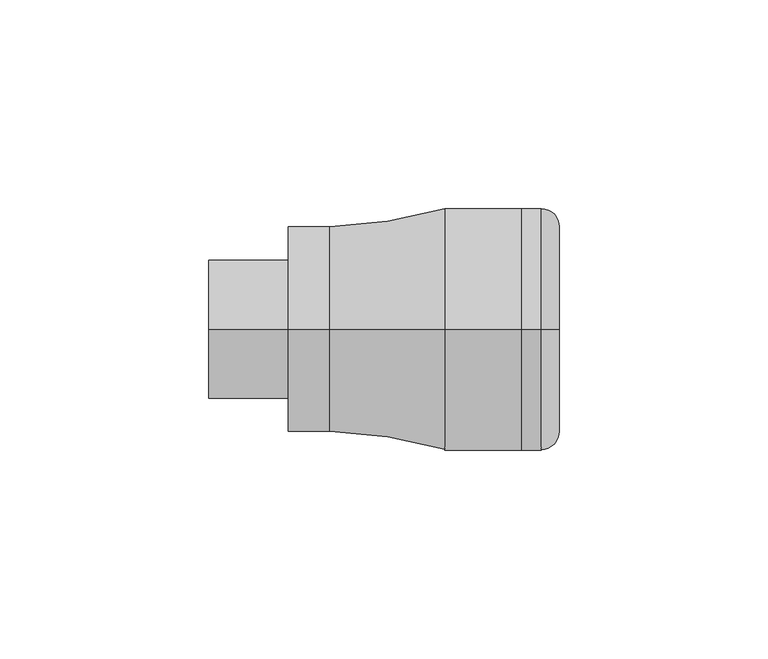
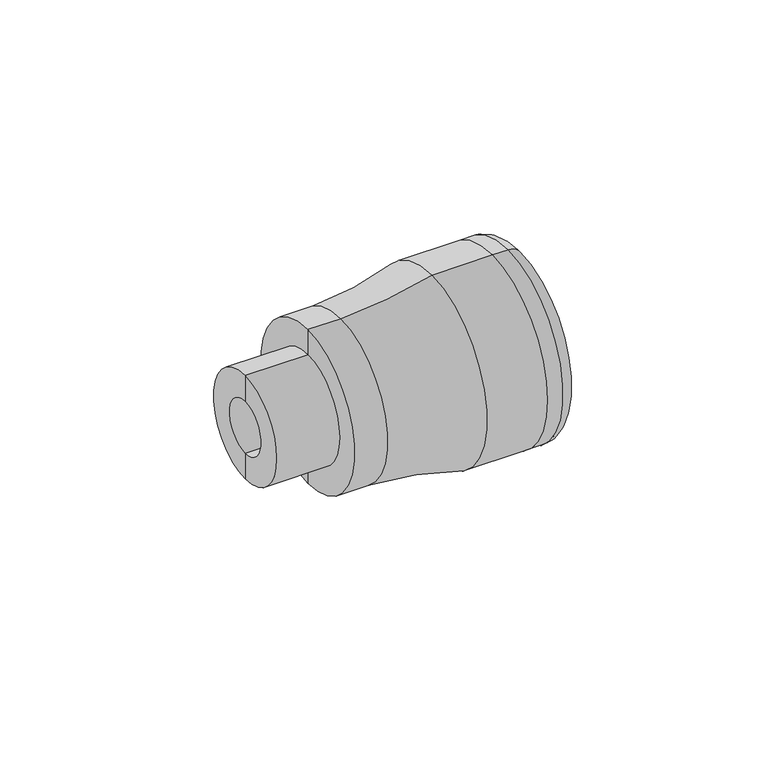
"""IFC4 building model written with IfcOpenShell, lengths in millimetres: pipe fitting geometry, Plumbing_Pipe-Fittings_Plasson_Male-Adaptor_1002 : Plumbing_Pipe-Fittings_Plasson_Male-Adaptor_1002."""

from ifc_helpers import new_model, si_unit, point, frame, origin, place, context, project, spatial, polyline, circle_curve, ellipse_curve, trimmed, source, transform, mapped, element, save
from ifc_brep_helpers import plane_surface, cylinder_surface, revolved_surface, advanced_brep


def pipe_fitting_8a6a588a(model_context):
    return source(origin(), model_context, "Body", "AdvancedBrep", [
        advanced_brep(
        [(0.8817136, 0.0, -8.3), (0.8817136, 0.0, 8.3), (-18.1182864, 0.0, 8.3), (-18.1182864, 0.0, -8.3), (0.8817136, 0.0, -16.6), (0.8817136, 0.0, 16.6), (-18.1182864, 0.0, -16.6), (-18.1182864, 0.0, 16.6)],
        [
            (0, 1, circle_curve(frame((0.8817136, 0.0, 0.0), z_axis=(1.0, 0.0, 0.0), x_axis=(0.0, 0.0, 1.0)), 8.3)),
            (1, 2),
            (2, 3, circle_curve(frame((-18.1182864, 0.0, 0.0), z_axis=(-1.0, 0.0, 0.0), x_axis=(0.0, 0.0, 1.0)), 8.3)),
            (3, 0),
            (1, 0, circle_curve(frame((0.8817136, 0.0, 0.0), z_axis=(1.0, 0.0, 0.0), x_axis=(0.0, 0.0, 1.0)), 8.3)),
            (3, 2, circle_curve(frame((-18.1182864, 0.0, 0.0), z_axis=(-1.0, 0.0, 0.0), x_axis=(0.0, 0.0, 1.0)), 8.3)),
            (4, 5, circle_curve(frame((0.8817136, 0.0, 0.0), z_axis=(1.0, 0.0, 0.0), x_axis=(0.0, 0.0, 1.0)), 16.6)),
            (5, 1),
            (0, 4),
            (5, 4, circle_curve(frame((0.8817136, 0.0, 0.0), z_axis=(1.0, 0.0, 0.0), x_axis=(0.0, 0.0, 1.0)), 16.6)),
            (6, 7, circle_curve(frame((-18.1182864, 0.0, 0.0), z_axis=(1.0, 0.0, 0.0), x_axis=(0.0, 0.0, 1.0)), 16.6)),
            (7, 5),
            (4, 6),
            (7, 6, circle_curve(frame((-18.1182864, 0.0, 0.0), z_axis=(1.0, 0.0, 0.0), x_axis=(0.0, 0.0, 1.0)), 16.6)),
            (2, 7),
            (6, 3),
        ],
        [
            revolved_surface(polyline([(-18.1182864, 0.0, 8.3), (0.8817135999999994, 0.0, 8.3)]), (-8.784953, 0.0, 0.0), (-1.0, 0.0, 0.0)),
            plane_surface(frame((0.8817136, 0.0, 0.0), z_axis=(1.0, 0.0, 0.0), x_axis=(0.0, 0.0, 1.0))),
            cylinder_surface(frame((-8.784953, 0.0, 0.0), z_axis=(-1.0, 0.0, 0.0), x_axis=(0.0, 0.0, 1.0)), 16.6),
            plane_surface(frame((-18.1182864, 0.0, 0.0), z_axis=(-1.0, 0.0, 0.0), x_axis=(0.0, 0.0, 1.0))),
        ],
        [
            (0, [[1, 2, 3, 4]]),
            (0, [[5, -4, 6, -2]]),
            (1, [[7, 8, -1, 9]]),
            (1, [[10, -9, -5, -8]]),
            (2, [[11, 12, -7, 13]]),
            (2, [[14, -13, -10, -12]]),
            (3, [[-3, 15, -11, 16]]),
            (3, [[-6, -16, -14, -15]]),
        ],
    ),
        advanced_brep(
        [(10.8817136, 0.0, -24.6666667), (10.8817136, 0.0, 24.6666667), (38.3817136, 0.0, 29.0), (38.3817136, 0.0, -29.0), (0.8817136, 0.0, -24.6666667), (0.8817136, 0.0, 24.6666667), (0.8817136, 0.0, -13.7257346), (0.8817136, 0.0, 13.7257346), (10.8817136, 0.0, -13.7257346), (10.8817136, 0.0, 13.7257346), (10.8817136, 0.0, -16.0), (10.8817136, 0.0, 16.0), (56.715047, 0.0, -16.0), (56.715047, 0.0, 16.0), (56.715047, 0.0, -29.0), (56.715047, 0.0, 29.0)],
        [
            (0, 1, circle_curve(frame((10.8817136, 0.0, 0.0), z_axis=(1.0, 0.0, 0.0), x_axis=(0.0, 0.0, 1.0)), 24.6666667)),
            (1, 2, circle_curve(frame((7.5771804, 0.0, 135.0640252), z_axis=(0.0, -1.0, 0.0), x_axis=(1.0, 0.0, 0.0)), 110.4468049)),
            (2, 3, circle_curve(frame((38.3817136, 0.0, 0.0), z_axis=(-1.0, 0.0, 0.0), x_axis=(0.0, 0.0, 1.0)), 29.0)),
            (3, 0, circle_curve(frame((7.5771804, 0.0, -135.0640252), z_axis=(0.0, -1.0, 0.0), x_axis=(1.0, 0.0, 0.0)), 110.4468049)),
            (1, 0, circle_curve(frame((10.8817136, 0.0, 0.0), z_axis=(1.0, 0.0, 0.0), x_axis=(0.0, 0.0, 1.0)), 24.6666667)),
            (3, 2, circle_curve(frame((38.3817136, 0.0, 0.0), z_axis=(-1.0, 0.0, 0.0), x_axis=(0.0, 0.0, 1.0)), 29.0)),
            (4, 5, circle_curve(frame((0.8817136, 0.0, 0.0), z_axis=(1.0, 0.0, 0.0), x_axis=(0.0, 0.0, 1.0)), 24.6666667)),
            (5, 1),
            (0, 4),
            (5, 4, circle_curve(frame((0.8817136, 0.0, 0.0), z_axis=(1.0, 0.0, 0.0), x_axis=(0.0, 0.0, 1.0)), 24.6666667)),
            (6, 7, circle_curve(frame((0.8817136, 0.0, 0.0), z_axis=(1.0, 0.0, 0.0), x_axis=(0.0, 0.0, 1.0)), 13.7257346)),
            (7, 5),
            (4, 6),
            (7, 6, circle_curve(frame((0.8817136, 0.0, 0.0), z_axis=(1.0, 0.0, 0.0), x_axis=(0.0, 0.0, 1.0)), 13.7257346)),
            (8, 9, circle_curve(frame((10.8817136, 0.0, 0.0), z_axis=(1.0, 0.0, 0.0), x_axis=(0.0, 0.0, 1.0)), 13.7257346)),
            (9, 7),
            (6, 8),
            (9, 8, circle_curve(frame((10.8817136, 0.0, 0.0), z_axis=(1.0, 0.0, 0.0), x_axis=(0.0, 0.0, 1.0)), 13.7257346)),
            (10, 11, circle_curve(frame((10.8817136, 0.0, 0.0), z_axis=(1.0, 0.0, 0.0), x_axis=(0.0, 0.0, 1.0)), 16.0)),
            (11, 9),
            (8, 10),
            (11, 10, circle_curve(frame((10.8817136, 0.0, 0.0), z_axis=(1.0, 0.0, 0.0), x_axis=(0.0, 0.0, 1.0)), 16.0)),
            (12, 13, circle_curve(frame((56.715047, 0.0, 0.0), z_axis=(1.0, 0.0, 0.0), x_axis=(0.0, 0.0, 1.0)), 16.0)),
            (13, 11),
            (10, 12),
            (13, 12, circle_curve(frame((56.715047, 0.0, 0.0), z_axis=(1.0, 0.0, 0.0), x_axis=(0.0, 0.0, 1.0)), 16.0)),
            (14, 15, circle_curve(frame((56.715047, 0.0, 0.0), z_axis=(1.0, 0.0, 0.0), x_axis=(0.0, 0.0, 1.0)), 29.0)),
            (15, 13),
            (12, 14),
            (15, 14, circle_curve(frame((56.715047, 0.0, 0.0), z_axis=(1.0, 0.0, 0.0), x_axis=(0.0, 0.0, 1.0)), 29.0)),
            (2, 15),
            (14, 3),
        ],
        [
            revolved_surface(trimmed(ellipse_curve(frame((7.5771804, 0.0, 135.0640252), z_axis=(0.0, 1.0, 0.0), x_axis=(1.0, 0.0, 0.0)), 110.4468049, 110.4468049), [point((38.3817136, 0.0, 29.0))], [point((10.8817136, 0.0, 24.6666667))], True, "CARTESIAN"), (38.3817136, 0.0, 0.0), (-1.0, 0.0, 0.0)),
            cylinder_surface(frame((38.3817136, 0.0, 0.0), z_axis=(-1.0, 0.0, 0.0), x_axis=(0.0, 0.0, 1.0)), 24.6666667),
            plane_surface(frame((0.8817136, 0.0, 0.0), z_axis=(-1.0, 0.0, 0.0), x_axis=(0.0, 0.0, 1.0))),
            revolved_surface(polyline([(0.8817135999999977, 0.0, 13.7257346), (10.881713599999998, 0.0, 13.7257346)]), (38.3817136, 0.0, 0.0), (-1.0, 0.0, 0.0)),
            plane_surface(frame((10.8817136, 0.0, 0.0), z_axis=(1.0, 0.0, 0.0), x_axis=(0.0, 0.0, 1.0))),
            revolved_surface(polyline([(10.881713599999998, 0.0, 16.0), (56.715047, 0.0, 16.0)]), (38.3817136, 0.0, 0.0), (-1.0, 0.0, 0.0)),
            plane_surface(frame((56.715047, 0.0, 0.0), z_axis=(1.0, 0.0, 0.0), x_axis=(0.0, 0.0, 1.0))),
            cylinder_surface(frame((38.3817136, 0.0, 0.0), z_axis=(-1.0, 0.0, 0.0), x_axis=(0.0, 0.0, 1.0)), 29.0),
        ],
        [
            (0, [[1, 2, 3, 4]]),
            (0, [[5, -4, 6, -2]]),
            (1, [[7, 8, -1, 9]]),
            (1, [[10, -9, -5, -8]]),
            (2, [[11, 12, -7, 13]]),
            (2, [[14, -13, -10, -12]]),
            (3, [[15, 16, -11, 17]]),
            (3, [[18, -17, -14, -16]]),
            (4, [[19, 20, -15, 21]]),
            (4, [[22, -21, -18, -20]]),
            (5, [[23, 24, -19, 25]]),
            (5, [[26, -25, -22, -24]]),
            (6, [[27, 28, -23, 29]]),
            (6, [[30, -29, -26, -28]]),
            (7, [[-3, 31, -27, 32]]),
            (7, [[-6, -32, -30, -31]]),
        ],
    ),
        advanced_brep(
        [(65.8817136, 0.0, -16.0), (65.8817136, 0.0, 16.0), (56.715047, 0.0, 16.0), (56.715047, 0.0, -16.0), (65.8817136, 0.0, -24.6666667), (65.8817136, 0.0, 24.6666667), (61.5483803, 0.0, -29.0), (61.5483803, 0.0, 29.0), (56.715047, 0.0, -29.0), (56.715047, 0.0, 29.0)],
        [
            (0, 1, circle_curve(frame((65.8817136, 0.0, 0.0), z_axis=(1.0, 0.0, 0.0), x_axis=(0.0, 0.0, 1.0)), 16.0)),
            (1, 2),
            (2, 3, circle_curve(frame((56.715047, 0.0, 0.0), z_axis=(-1.0, 0.0, 0.0), x_axis=(0.0, 0.0, 1.0)), 16.0)),
            (3, 0),
            (1, 0, circle_curve(frame((65.8817136, 0.0, 0.0), z_axis=(1.0, 0.0, 0.0), x_axis=(0.0, 0.0, 1.0)), 16.0)),
            (3, 2, circle_curve(frame((56.715047, 0.0, 0.0), z_axis=(-1.0, 0.0, 0.0), x_axis=(0.0, 0.0, 1.0)), 16.0)),
            (4, 5, circle_curve(frame((65.8817136, 0.0, 0.0), z_axis=(1.0, 0.0, 0.0), x_axis=(0.0, 0.0, 1.0)), 24.6666667)),
            (5, 1),
            (0, 4),
            (5, 4, circle_curve(frame((65.8817136, 0.0, 0.0), z_axis=(1.0, 0.0, 0.0), x_axis=(0.0, 0.0, 1.0)), 24.6666667)),
            (6, 7, circle_curve(frame((61.5483803, 0.0, 0.0), z_axis=(1.0, 0.0, 0.0), x_axis=(0.0, 0.0, 1.0)), 29.0)),
            (7, 5, circle_curve(frame((61.5483803, 0.0, 24.6666667), z_axis=(0.0, 1.0, 0.0), x_axis=(1.0, 0.0, 0.0)), 4.3333333)),
            (4, 6, circle_curve(frame((61.5483803, 0.0, -24.6666667), z_axis=(0.0, 1.0, 0.0), x_axis=(1.0, 0.0, 0.0)), 4.3333333)),
            (7, 6, circle_curve(frame((61.5483803, 0.0, 0.0), z_axis=(1.0, 0.0, 0.0), x_axis=(0.0, 0.0, 1.0)), 29.0)),
            (8, 9, circle_curve(frame((56.715047, 0.0, 0.0), z_axis=(1.0, 0.0, 0.0), x_axis=(0.0, 0.0, 1.0)), 29.0)),
            (9, 7),
            (6, 8),
            (9, 8, circle_curve(frame((56.715047, 0.0, 0.0), z_axis=(1.0, 0.0, 0.0), x_axis=(0.0, 0.0, 1.0)), 29.0)),
            (2, 9),
            (8, 3),
        ],
        [
            revolved_surface(polyline([(56.715047, 0.0, 16.0), (65.8817136, 0.0, 16.0)]), (42.8288773, 0.0, 0.0), (-1.0, 0.0, 0.0)),
            plane_surface(frame((65.8817136, 0.0, 0.0), z_axis=(1.0, 0.0, 0.0), x_axis=(0.0, 0.0, 1.0))),
            revolved_surface(trimmed(ellipse_curve(frame((61.5483803, 0.0, 24.6666667), z_axis=(0.0, -1.0, 0.0), x_axis=(1.0, 0.0, 0.0)), 4.3333333, 4.3333333), [point((65.8817136, 0.0, 24.6666667))], [point((61.5483803, 0.0, 29.0))], True, "CARTESIAN"), (42.8288773, 0.0, 0.0), (-1.0, 0.0, 0.0)),
            cylinder_surface(frame((42.8288773, 0.0, 0.0), z_axis=(-1.0, 0.0, 0.0), x_axis=(0.0, 0.0, 1.0)), 29.0),
            plane_surface(frame((56.715047, 0.0, 0.0), z_axis=(-1.0, 0.0, 0.0), x_axis=(0.0, 0.0, 1.0))),
        ],
        [
            (0, [[1, 2, 3, 4]]),
            (0, [[5, -4, 6, -2]]),
            (1, [[7, 8, -1, 9]]),
            (1, [[10, -9, -5, -8]]),
            (2, [[11, 12, -7, 13]]),
            (2, [[14, -13, -10, -12]]),
            (3, [[15, 16, -11, 17]]),
            (3, [[18, -17, -14, -16]]),
            (4, [[-3, 19, -15, 20]]),
            (4, [[-6, -20, -18, -19]]),
        ],
    ),
    ])


if __name__ == "__main__":
    model = new_model("IFC4")
    model_context = context("Model", 3, world=origin())
    ifc_project = project(units=[si_unit("LENGTHUNIT", "METRE", prefix="MILLI")], contexts=[model_context])
    site = spatial("IfcSite", under=ifc_project)
    building = spatial("IfcBuilding", under=site)
    placement = place(None, origin())
    pipe_fitting_shape = pipe_fitting_8a6a588a(model_context)
    element("IfcPipeFitting", 1, ObjectType="Plumbing_Pipe-Fittings_Plasson_Male-Adaptor_1002 : Plumbing_Pipe-Fittings_Plasson_Male-Adaptor_1002", at=placement, inside=building, context=model_context, shape_type="MappedRepresentation", body=[
        mapped(pipe_fitting_shape, transform((0.0, 0.0, 0.0), x_axis=(1.0, 0.0, 0.0), y_axis=(0.0, 1.0, 0.0), z_axis=(0.0, 0.0, 1.0))),
    ])
    save(model, "model.ifc")
